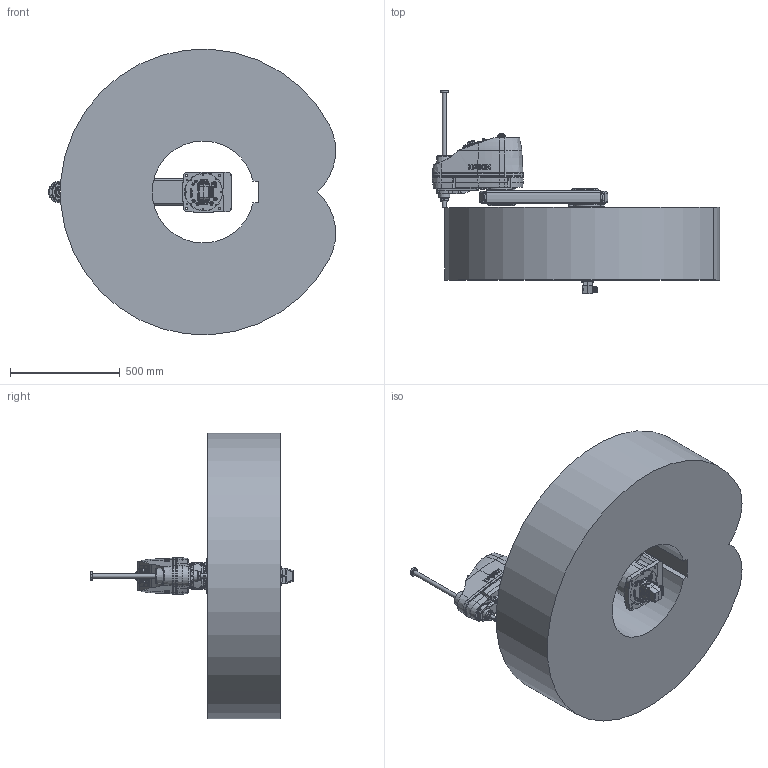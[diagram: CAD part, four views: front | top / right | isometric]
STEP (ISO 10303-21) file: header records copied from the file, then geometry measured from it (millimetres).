
FILE_DESCRIPTION( ( 'STEP AP214' ), '1' );
FILE_NAME( 'C:/Users/9607552/Desktop/GX8-B653SB_langle.stp', '2023-07-07T02:55:53', ( '' ), ( '' ), ' ', 'PARTsolutions', ' ' );
FILE_SCHEMA( ( 'AUTOMOTIVE_DESIGN { 1 0 10303 214 1 1 1 1 }' ) );
Length unit declared in the file: millimetre
Products named in the file (9): GX8-B653SB-AW; _B452SBbasegx8; _B652Sj1arm; _GX8-B653SBj1arm2; _GX8-B653SBj1arm1; _B452S_J2; _B453SZA; _Angle-B; _GX8-25-1-B_WS
Assembly tree (10 placements, depth 2):
  GX8-B653SB-AW
    _B452SBbasegx8
    _B652Sj1arm
    _GX8-B653SBj1arm2  x2
    _GX8-B653SBj1arm1  x2
    _B452S_J2
    _B453SZA
    _Angle-B
    _GX8-25-1-B_WS
Bounding box: 1308.1 x 928.1 x 1298.02 mm (x, y, z)
Volume: 396482603.4 mm3; surface area: 5259613.3 mm2
Topology: 10 solids, 11 shells, 2923 faces, 7185 edges, 4700 vertices
Faces by surface type: plane 1472, cylinder 936, cone 354, torus 118, bspline 37, sphere 6
Full cylindrical faces by diameter (mm): 1 x48, 1.18 x55, 2.459 x12, 3 x32, 3.242 x20, 3.3 x5, 3.9 x4, 4 x4, 4.2 x6, 4.5 x4, 4.8 x5, 4.917 x2, 5.34 x4, 5.5 x17, 6 x1, 6.2 x2, 6.647 x4, 6.8 x2, 7 x48, 8 x5, 8.5 x6, 9 x24, 10 x18, 11 x4, 11.2 x7, 11.5 x1, 12 x5, 12.25 x1, 13 x3, 13.2 x12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
Entity records: 104780 total; most frequent: CARTESIAN_POINT 20200, DIRECTION 12839, ORIENTED_EDGE 11952, EDGE_CURVE 5976, AXIS2_PLACEMENT_3D 4945, VERTEX_POINT 4303, EDGE_LOOP 3852, FACE_OUTER_BOUND 3213
